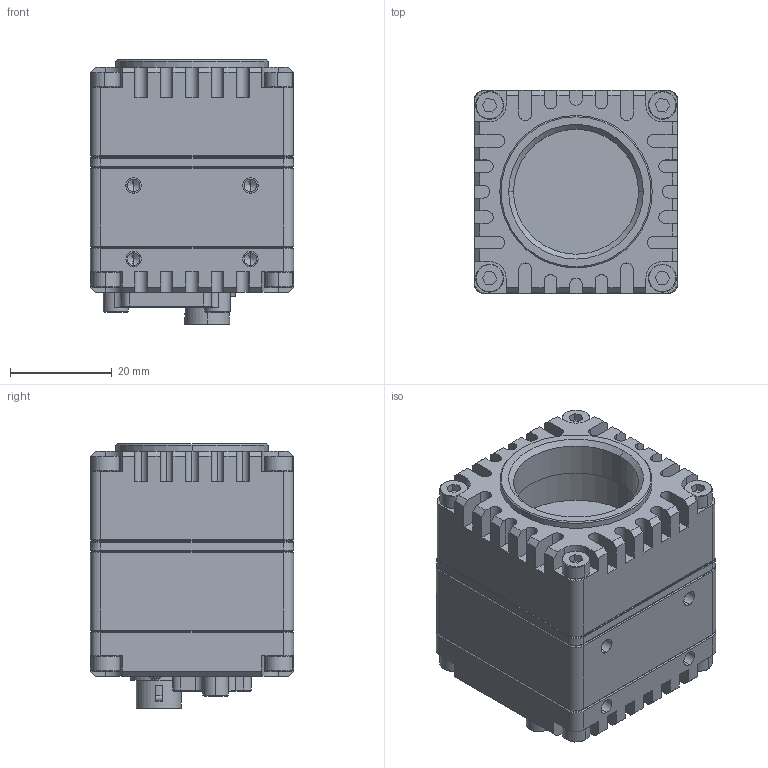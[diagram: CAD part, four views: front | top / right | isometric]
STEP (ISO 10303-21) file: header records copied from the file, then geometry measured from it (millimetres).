
FILE_DESCRIPTION (( 'STEP AP203' ), '1' );
FILE_NAME ('FG-PGE-13S3S-U-C-R1.STEP', '2024-08-22T23:13:51', ( '' ), ( '' ), 'SwSTEP 2.0', 'SolidWorks 2020', '' );
FILE_SCHEMA (( 'CONFIG_CONTROL_DESIGN' ));
Length unit declared in the file: millimetre
Products named in the file (1): FG-PGE-13S3S-U-C-R1
Bounding box: 40 x 40 x 52 mm (x, y, z)
Volume: 60778.2 mm3; surface area: 16180.7 mm2
Topology: 1 solids, 9 shells, 817 faces, 2096 edges, 1324 vertices
Faces by surface type: plane 421, cylinder 250, cone 128, torus 16, sphere 2
Entity records: 24717 total; most frequent: CARTESIAN_POINT 4410, DIRECTION 4322, ORIENTED_EDGE 4152, EDGE_CURVE 2076, AXIS2_PLACEMENT_3D 1472, LINE 1378, VECTOR 1378, VERTEX_POINT 1324
